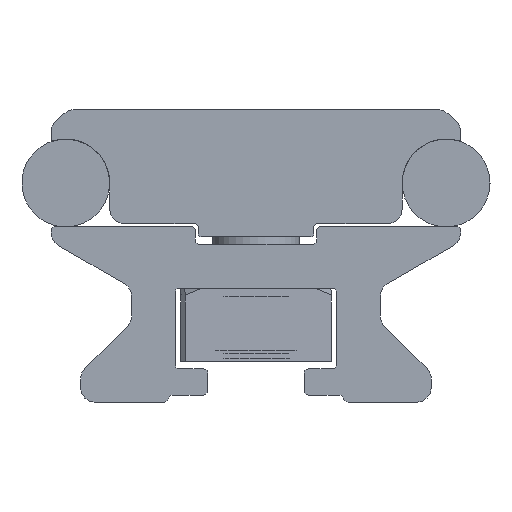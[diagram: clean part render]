
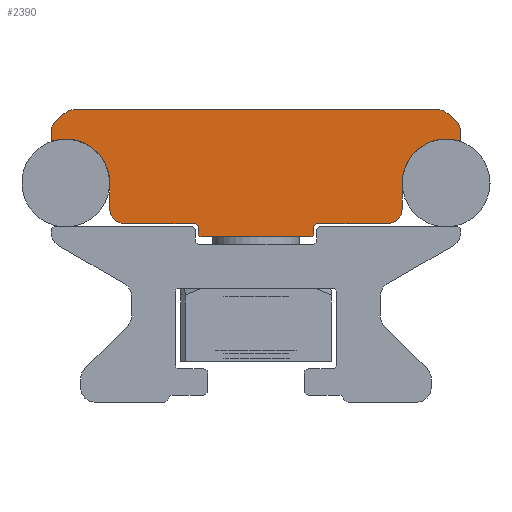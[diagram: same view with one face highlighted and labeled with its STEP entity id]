
A CAD part, left-side view. The second image highlights one B-rep face of the part: STEP entity #2390.
In plain terms, the highlighted planar face has unit normal (-1, 0, 0).
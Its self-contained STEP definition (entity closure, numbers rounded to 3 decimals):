
#105=CIRCLE('',#2563,3.011);
#107=CIRCLE('',#2566,0.1);
#109=CIRCLE('',#2570,1.);
#111=CIRCLE('',#2574,1.);
#120=CIRCLE('',#2585,1.);
#122=CIRCLE('',#2589,1.);
#124=CIRCLE('',#2593,0.1);
#126=CIRCLE('',#2596,3.011);
#128=CIRCLE('',#2600,1.);
#130=CIRCLE('',#2604,0.2);
#132=CIRCLE('',#2608,0.2);
#141=CIRCLE('',#2619,0.2);
#143=CIRCLE('',#2623,0.2);
#145=CIRCLE('',#2627,1.);
#437=ORIENTED_EDGE('',*,*,#949,.F.);
#438=ORIENTED_EDGE('',*,*,#1039,.F.);
#439=ORIENTED_EDGE('',*,*,#1036,.F.);
#440=ORIENTED_EDGE('',*,*,#1033,.F.);
#441=ORIENTED_EDGE('',*,*,#1030,.F.);
#442=ORIENTED_EDGE('',*,*,#1027,.F.);
#443=ORIENTED_EDGE('',*,*,#1024,.F.);
#444=ORIENTED_EDGE('',*,*,#1014,.F.);
#445=ORIENTED_EDGE('',*,*,#1011,.F.);
#446=ORIENTED_EDGE('',*,*,#1008,.F.);
#447=ORIENTED_EDGE('',*,*,#1005,.F.);
#448=ORIENTED_EDGE('',*,*,#1002,.F.);
#449=ORIENTED_EDGE('',*,*,#999,.F.);
#450=ORIENTED_EDGE('',*,*,#996,.F.);
#451=ORIENTED_EDGE('',*,*,#993,.F.);
#452=ORIENTED_EDGE('',*,*,#990,.F.);
#453=ORIENTED_EDGE('',*,*,#987,.F.);
#454=ORIENTED_EDGE('',*,*,#984,.F.);
#455=ORIENTED_EDGE('',*,*,#981,.F.);
#456=ORIENTED_EDGE('',*,*,#978,.F.);
#457=ORIENTED_EDGE('',*,*,#968,.F.);
#458=ORIENTED_EDGE('',*,*,#965,.F.);
#459=ORIENTED_EDGE('',*,*,#962,.F.);
#460=ORIENTED_EDGE('',*,*,#959,.F.);
#461=ORIENTED_EDGE('',*,*,#956,.F.);
#462=ORIENTED_EDGE('',*,*,#953,.F.);
#949=EDGE_CURVE('',#1277,#1278,#1510,.T.);
#953=EDGE_CURVE('',#1278,#1281,#105,.T.);
#956=EDGE_CURVE('',#1281,#1283,#107,.T.);
#959=EDGE_CURVE('',#1283,#1285,#1516,.T.);
#962=EDGE_CURVE('',#1285,#1287,#109,.T.);
#965=EDGE_CURVE('',#1287,#1289,#1520,.T.);
#968=EDGE_CURVE('',#1289,#1291,#111,.T.);
#978=EDGE_CURVE('',#1291,#1300,#1524,.T.);
#981=EDGE_CURVE('',#1300,#1302,#120,.T.);
#984=EDGE_CURVE('',#1302,#1304,#1528,.T.);
#987=EDGE_CURVE('',#1304,#1306,#122,.T.);
#990=EDGE_CURVE('',#1306,#1308,#1532,.T.);
#993=EDGE_CURVE('',#1308,#1310,#124,.T.);
#996=EDGE_CURVE('',#1310,#1312,#126,.T.);
#999=EDGE_CURVE('',#1312,#1314,#1537,.T.);
#1002=EDGE_CURVE('',#1314,#1316,#128,.T.);
#1005=EDGE_CURVE('',#1316,#1318,#1541,.T.);
#1008=EDGE_CURVE('',#1318,#1320,#130,.T.);
#1011=EDGE_CURVE('',#1320,#1322,#1545,.T.);
#1014=EDGE_CURVE('',#1322,#1324,#132,.T.);
#1024=EDGE_CURVE('',#1324,#1333,#1549,.T.);
#1027=EDGE_CURVE('',#1333,#1335,#141,.T.);
#1030=EDGE_CURVE('',#1335,#1337,#1553,.T.);
#1033=EDGE_CURVE('',#1337,#1339,#143,.T.);
#1036=EDGE_CURVE('',#1339,#1341,#1557,.T.);
#1039=EDGE_CURVE('',#1341,#1277,#145,.T.);
#1277=VERTEX_POINT('',#3619);
#1278=VERTEX_POINT('',#3620);
#1281=VERTEX_POINT('',#3628);
#1283=VERTEX_POINT('',#3634);
#1285=VERTEX_POINT('',#3640);
#1287=VERTEX_POINT('',#3646);
#1289=VERTEX_POINT('',#3652);
#1291=VERTEX_POINT('',#3658);
#1300=VERTEX_POINT('',#3678);
#1302=VERTEX_POINT('',#3684);
#1304=VERTEX_POINT('',#3690);
#1306=VERTEX_POINT('',#3696);
#1308=VERTEX_POINT('',#3702);
#1310=VERTEX_POINT('',#3708);
#1312=VERTEX_POINT('',#3714);
#1314=VERTEX_POINT('',#3720);
#1316=VERTEX_POINT('',#3726);
#1318=VERTEX_POINT('',#3732);
#1320=VERTEX_POINT('',#3738);
#1322=VERTEX_POINT('',#3744);
#1324=VERTEX_POINT('',#3750);
#1333=VERTEX_POINT('',#3770);
#1335=VERTEX_POINT('',#3776);
#1337=VERTEX_POINT('',#3782);
#1339=VERTEX_POINT('',#3788);
#1341=VERTEX_POINT('',#3794);
#1510=LINE('',#3618,#1711);
#1516=LINE('',#3639,#1717);
#1520=LINE('',#3651,#1721);
#1524=LINE('',#3677,#1725);
#1528=LINE('',#3689,#1729);
#1532=LINE('',#3701,#1733);
#1537=LINE('',#3719,#1738);
#1541=LINE('',#3731,#1742);
#1545=LINE('',#3743,#1746);
#1549=LINE('',#3769,#1750);
#1553=LINE('',#3781,#1754);
#1557=LINE('',#3793,#1758);
#1711=VECTOR('',#2849,1000.);
#1717=VECTOR('',#2869,1000.);
#1721=VECTOR('',#2881,1000.);
#1725=VECTOR('',#2907,1000.);
#1729=VECTOR('',#2919,1000.);
#1733=VECTOR('',#2931,1000.);
#1738=VECTOR('',#2950,1000.);
#1742=VECTOR('',#2962,1000.);
#1746=VECTOR('',#2974,1000.);
#1750=VECTOR('',#3000,1000.);
#1754=VECTOR('',#3012,1000.);
#1758=VECTOR('',#3024,1000.);
#1953=EDGE_LOOP('',(#437,#438,#439,#440,#441,#442,#443,#444,#445,#446,#447,
#448,#449,#450,#451,#452,#453,#454,#455,#456,#457,#458,#459,#460,#461,#462));
#2142=FACE_BOUND('',#1953,.T.);
#2303=PLANE('',#2630);
#2390=ADVANCED_FACE('',(#2142),#2303,.T.);
#2563=AXIS2_PLACEMENT_3D('',#3627,#2855,#2856);
#2566=AXIS2_PLACEMENT_3D('',#3633,#2862,#2863);
#2570=AXIS2_PLACEMENT_3D('',#3645,#2874,#2875);
#2574=AXIS2_PLACEMENT_3D('',#3657,#2886,#2887);
#2585=AXIS2_PLACEMENT_3D('',#3683,#2912,#2913);
#2589=AXIS2_PLACEMENT_3D('',#3695,#2924,#2925);
#2593=AXIS2_PLACEMENT_3D('',#3707,#2936,#2937);
#2596=AXIS2_PLACEMENT_3D('',#3713,#2943,#2944);
#2600=AXIS2_PLACEMENT_3D('',#3725,#2955,#2956);
#2604=AXIS2_PLACEMENT_3D('',#3737,#2967,#2968);
#2608=AXIS2_PLACEMENT_3D('',#3749,#2979,#2980);
#2619=AXIS2_PLACEMENT_3D('',#3775,#3005,#3006);
#2623=AXIS2_PLACEMENT_3D('',#3787,#3017,#3018);
#2627=AXIS2_PLACEMENT_3D('',#3799,#3029,#3030);
#2630=AXIS2_PLACEMENT_3D('',#3802,#3035,#3036);
#2849=DIRECTION('',(0.,0.,1.));
#2855=DIRECTION('',(-1.,0.,0.));
#2856=DIRECTION('',(0.,1.,0.));
#2862=DIRECTION('',(1.,0.,0.));
#2863=DIRECTION('',(0.,-1.,0.));
#2869=DIRECTION('',(0.,0.,1.));
#2874=DIRECTION('',(1.,0.,0.));
#2875=DIRECTION('',(0.,1.,0.));
#2881=DIRECTION('',(0.,-0.766,0.643));
#2886=DIRECTION('',(1.,0.,0.));
#2887=DIRECTION('',(0.,1.,0.));
#2907=DIRECTION('',(0.,-1.,0.));
#2912=DIRECTION('',(1.,0.,0.));
#2913=DIRECTION('',(0.,1.,0.));
#2919=DIRECTION('',(0.,-0.766,-0.643));
#2924=DIRECTION('',(1.,0.,0.));
#2925=DIRECTION('',(0.,1.,0.));
#2931=DIRECTION('',(0.,0.,-1.));
#2936=DIRECTION('',(1.,0.,0.));
#2937=DIRECTION('',(0.,1.,0.));
#2943=DIRECTION('',(-1.,0.,0.));
#2944=DIRECTION('',(0.,1.,0.));
#2950=DIRECTION('',(0.,0.,-1.));
#2955=DIRECTION('',(1.,0.,0.));
#2956=DIRECTION('',(0.,1.,0.));
#2962=DIRECTION('',(0.,1.,0.));
#2967=DIRECTION('',(-1.,0.,0.));
#2968=DIRECTION('',(0.,-1.,0.));
#2974=DIRECTION('',(0.,0.,-1.));
#2979=DIRECTION('',(1.,0.,0.));
#2980=DIRECTION('',(0.,1.,0.));
#3000=DIRECTION('',(0.,1.,0.));
#3005=DIRECTION('',(1.,0.,0.));
#3006=DIRECTION('',(0.,-1.,0.));
#3012=DIRECTION('',(0.,0.,1.));
#3017=DIRECTION('',(-1.,0.,0.));
#3018=DIRECTION('',(0.,1.,0.));
#3024=DIRECTION('',(0.,1.,0.));
#3029=DIRECTION('',(1.,0.,0.));
#3030=DIRECTION('',(0.,-1.,0.));
#3035=DIRECTION('',(-1.,0.,0.));
#3036=DIRECTION('',(0.,-1.,0.));
#3618=CARTESIAN_POINT('',(-357.2,2405.317,2043.28));
#3619=CARTESIAN_POINT('',(-357.2,2405.317,2043.28));
#3620=CARTESIAN_POINT('',(-357.2,2405.317,2045.071));
#3627=CARTESIAN_POINT('',(-357.2,2408.327,2045.066));
#3628=CARTESIAN_POINT('',(-357.2,2409.188,2047.951));
#3633=CARTESIAN_POINT('',(-357.2,2409.217,2048.047));
#3634=CARTESIAN_POINT('',(-357.2,2409.317,2048.047));
#3639=CARTESIAN_POINT('',(-357.2,2409.317,2048.047));
#3640=CARTESIAN_POINT('',(-357.2,2409.317,2048.604));
#3645=CARTESIAN_POINT('',(-357.2,2408.317,2048.604));
#3646=CARTESIAN_POINT('',(-357.2,2408.96,2049.37));
#3651=CARTESIAN_POINT('',(-357.2,2408.96,2049.37));
#3652=CARTESIAN_POINT('',(-357.2,2408.392,2049.846));
#3657=CARTESIAN_POINT('',(-357.2,2407.749,2049.08));
#3658=CARTESIAN_POINT('',(-357.2,2407.749,2050.08));
#3677=CARTESIAN_POINT('',(-357.2,2407.749,2050.08));
#3678=CARTESIAN_POINT('',(-357.2,2382.885,2050.08));
#3683=CARTESIAN_POINT('',(-357.2,2382.885,2049.08));
#3684=CARTESIAN_POINT('',(-357.2,2382.242,2049.846));
#3689=CARTESIAN_POINT('',(-357.2,2382.242,2049.846));
#3690=CARTESIAN_POINT('',(-357.2,2381.674,2049.37));
#3695=CARTESIAN_POINT('',(-357.2,2382.317,2048.604));
#3696=CARTESIAN_POINT('',(-357.2,2381.317,2048.604));
#3701=CARTESIAN_POINT('',(-357.2,2381.317,2048.604));
#3702=CARTESIAN_POINT('',(-357.2,2381.317,2048.047));
#3707=CARTESIAN_POINT('',(-357.2,2381.417,2048.047));
#3708=CARTESIAN_POINT('',(-357.2,2381.446,2047.951));
#3713=CARTESIAN_POINT('',(-357.2,2382.306,2045.066));
#3714=CARTESIAN_POINT('',(-357.2,2385.317,2045.08));
#3719=CARTESIAN_POINT('',(-357.2,2385.317,2045.08));
#3720=CARTESIAN_POINT('',(-357.2,2385.317,2043.28));
#3725=CARTESIAN_POINT('',(-357.2,2386.317,2043.28));
#3726=CARTESIAN_POINT('',(-357.2,2386.317,2042.28));
#3731=CARTESIAN_POINT('',(-357.2,2386.317,2042.28));
#3732=CARTESIAN_POINT('',(-357.2,2391.165,2042.28));
#3737=CARTESIAN_POINT('',(-357.2,2391.165,2042.08));
#3738=CARTESIAN_POINT('',(-357.2,2391.365,2042.08));
#3743=CARTESIAN_POINT('',(-357.2,2391.365,2042.08));
#3744=CARTESIAN_POINT('',(-357.2,2391.365,2041.58));
#3749=CARTESIAN_POINT('',(-357.2,2391.565,2041.58));
#3750=CARTESIAN_POINT('',(-357.2,2391.565,2041.38));
#3769=CARTESIAN_POINT('',(-357.2,2395.317,2041.38));
#3770=CARTESIAN_POINT('',(-357.2,2399.069,2041.38));
#3775=CARTESIAN_POINT('',(-357.2,2399.069,2041.58));
#3776=CARTESIAN_POINT('',(-357.2,2399.269,2041.58));
#3781=CARTESIAN_POINT('',(-357.2,2399.269,2041.58));
#3782=CARTESIAN_POINT('',(-357.2,2399.269,2042.08));
#3787=CARTESIAN_POINT('',(-357.2,2399.469,2042.08));
#3788=CARTESIAN_POINT('',(-357.2,2399.469,2042.28));
#3793=CARTESIAN_POINT('',(-357.2,2399.469,2042.28));
#3794=CARTESIAN_POINT('',(-357.2,2404.317,2042.28));
#3799=CARTESIAN_POINT('',(-357.2,2404.317,2043.28));
#3802=CARTESIAN_POINT('',(-357.2,2408.327,2045.066));
